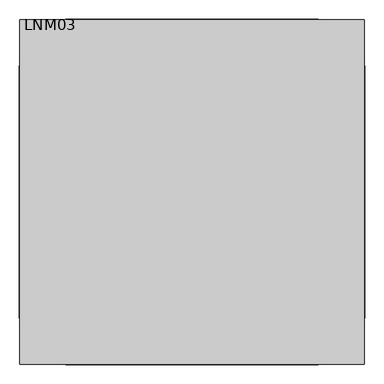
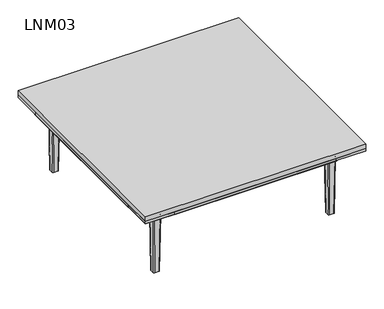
"""IFC4 building model written with IfcOpenShell, lengths in millimetres: furniture geometry, Coffe Tables : LNM03."""

from ifc_helpers import new_model, si_unit, point, frame, origin, place, context, project, spatial, polyline, circle_curve, ellipse_curve, trimmed, outline, extrude, faceted_brep, source, transform, mapped, element, save
from ifc_brep_helpers import plane_surface, cylinder_surface, revolved_surface, extruded_surface, advanced_brep


def lnm03_3ccea197(model_context):
    return source(origin(), model_context, "Body", "SolidModel", [
        extrude(outline(polyline([(450.0, -330.0), (450.0, -450.0), (330.0, -450.0), (330.0, -330.0), (450.0, -330.0)])), frame((0.0, 0.0, 290.0), z_axis=(0.0, 0.0, 1.0), x_axis=(1.0, 0.0, 0.0)), (0.0, 0.0, 1.0), 10.0),
        extrude(outline(polyline([(450.0, 450.0), (450.0, 330.0), (330.0, 330.0), (330.0, 450.0), (450.0, 450.0)])), frame((0.0, 0.0, 290.0), z_axis=(0.0, 0.0, 1.0), x_axis=(1.0, 0.0, 0.0)), (0.0, 0.0, 1.0), 10.0),
        extrude(outline(polyline([(-330.0, 450.0), (-330.0, 330.0), (-450.0, 330.0), (-450.0, 450.0), (-330.0, 450.0)])), frame((0.0, 0.0, 290.0), z_axis=(0.0, 0.0, 1.0), x_axis=(1.0, 0.0, 0.0)), (0.0, 0.0, 1.0), 10.0),
        extrude(outline(polyline([(-450.0, 330.0), (-330.0, 330.0), (-330.0, -330.0), (-450.0, -330.0), (-450.0, 330.0)])), frame((0.0, 0.0, 290.0), z_axis=(0.0, 0.0, 1.0), x_axis=(1.0, 0.0, 0.0)), (0.0, 0.0, 1.0), 10.0),
        extrude(outline(polyline([(330.0, 330.0), (450.0, 330.0), (450.0, -330.0), (330.0, -330.0), (330.0, 330.0)])), frame((0.0, 0.0, 290.0), z_axis=(0.0, 0.0, 1.0), x_axis=(1.0, 0.0, 0.0)), (0.0, 0.0, 1.0), 10.0),
        extrude(outline(polyline([(330.0, -330.0), (330.0, -450.0), (-330.0, -450.0), (-330.0, -330.0), (330.0, -330.0)])), frame((0.0, 0.0, 290.0), z_axis=(0.0, 0.0, 1.0), x_axis=(1.0, 0.0, 0.0)), (0.0, 0.0, 1.0), 10.0),
        extrude(outline(polyline([(330.0, 450.0), (330.0, 330.0), (-330.0, 330.0), (-330.0, 450.0), (330.0, 450.0)])), frame((0.0, 0.0, 290.0), z_axis=(0.0, 0.0, 1.0), x_axis=(1.0, 0.0, 0.0)), (0.0, 0.0, 1.0), 10.0),
        extrude(outline(polyline([(290.0, 330.0), (255.0, 330.0), (255.0, 378.7129935), (290.0, 451.7129935), (290.0, 330.0)])), frame((0.0, -330.0, 0.0), z_axis=(0.0, 1.0, 0.0), x_axis=(0.0, 0.0, 1.0)), (0.0, 0.0, 1.0), 660.0),
        extrude(outline(polyline([(290.0, -330.0), (290.0, -451.7129935), (255.0, -378.7129935), (255.0, -330.0), (290.0, -330.0)])), frame((0.0, -330.0, 0.0), z_axis=(0.0, 1.0, 0.0), x_axis=(0.0, 0.0, 1.0)), (0.0, 0.0, 1.0), 660.0),
        extrude(outline(polyline([(330.0, 290.0), (451.7129935, 290.0), (378.7129935, 255.0), (330.0, 255.0), (330.0, 290.0)])), frame((-330.0, 0.0, 0.0), z_axis=(1.0, 0.0, 0.0), x_axis=(0.0, 1.0, 0.0)), (0.0, 0.0, 1.0), 660.0),
        extrude(outline(polyline([(-330.0, 290.0), (-330.0, 255.0), (-378.7129935, 255.0), (-451.7129935, 290.0), (-330.0, 290.0)])), frame((-330.0, 0.0, 0.0), z_axis=(1.0, 0.0, 0.0), x_axis=(0.0, 1.0, 0.0)), (0.0, 0.0, 1.0), 660.0),
        faceted_brep([(-330.0, 330.0, 290.0), (-330.0, 450.0, 290.0), (-450.0, 450.0, 290.0), (-450.0, 330.0, 290.0), (-330.0, 330.0, 255.0), (-377.0, 330.0, 255.0), (-377.0, 377.0, 255.0), (-330.0, 377.0, 255.0)], [[[0, 1, 2, 3]], [[4, 5, 6, 7]], [[1, 0, 4, 7]], [[0, 3, 5, 4]], [[6, 2, 1, 7]], [[2, 6, 5, 3]]]),
        advanced_brep(
        [(-337.0, 345.0, 255.0), (-337.0, 369.0, 255.0), (-345.0, 377.0, 255.0), (-369.0, 377.0, 255.0), (-377.0, 369.0, 255.0), (-377.0, 345.0, 255.0), (-369.0, 337.0, 255.0), (-345.0, 337.0, 255.0), (-369.0, 342.0, 245.0), (-372.0, 345.0, 245.0), (-372.0, 369.0, 245.0), (-369.0, 372.0, 245.0), (-345.0, 372.0, 245.0), (-342.0, 369.0, 245.0), (-342.0, 345.0, 245.0), (-345.0, 342.0, 245.0), (-337.0, 345.0, 252.0), (-337.0, 369.0, 252.0), (-345.0, 377.0, 252.0), (-369.0, 377.0, 252.0), (-377.0, 369.0, 252.0), (-377.0, 345.0, 252.0), (-369.0, 337.0, 252.0), (-345.0, 337.0, 252.0)],
        [
            (0, 1),
            (1, 2, circle_curve(frame((-345.0, 369.0, 255.0), z_axis=(0.0, 0.0, 1.0), x_axis=(0.0, -1.0000000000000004, 0.0)), 8.0)),
            (2, 3),
            (3, 4, circle_curve(frame((-369.0, 369.0, 255.0), z_axis=(0.0, 0.0, 1.0), x_axis=(0.0, -1.0000000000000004, 0.0)), 8.0)),
            (4, 5),
            (5, 6, circle_curve(frame((-369.0, 345.0, 255.0), z_axis=(0.0, 0.0, 1.0), x_axis=(0.0, -1.0000000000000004, 0.0)), 8.0)),
            (6, 7),
            (7, 0, circle_curve(frame((-345.0, 345.0, 255.0), z_axis=(0.0, 0.0, 1.0), x_axis=(0.0, -1.0000000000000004, 0.0)), 8.0)),
            (8, 9, circle_curve(frame((-369.0, 345.0, 245.0), z_axis=(0.0, 0.0, -1.0), x_axis=(0.0, -1.0000000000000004, 0.0)), 3.0)),
            (9, 10),
            (10, 11, circle_curve(frame((-369.0, 369.0, 245.0), z_axis=(0.0, 0.0, -1.0), x_axis=(-1.0000000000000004, 0.0, 0.0)), 3.0)),
            (11, 12),
            (12, 13, circle_curve(frame((-345.0, 369.0, 245.0), z_axis=(0.0, 0.0, -1.0), x_axis=(0.0, 1.0000000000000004, 0.0)), 3.0)),
            (13, 14),
            (14, 15, circle_curve(frame((-345.0, 345.0, 245.0), z_axis=(0.0, 0.0, -1.0), x_axis=(1.0000000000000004, 0.0, 0.0)), 3.0)),
            (15, 8),
            (0, 16),
            (16, 17),
            (17, 1),
            (17, 18, circle_curve(frame((-345.0, 369.0, 252.0), z_axis=(0.0, 0.0, 1.0), x_axis=(0.0, -1.0000000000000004, 0.0)), 8.0)),
            (18, 2),
            (18, 19),
            (19, 3),
            (19, 20, circle_curve(frame((-369.0, 369.0, 252.0), z_axis=(0.0, 0.0, 1.0), x_axis=(0.0, -1.0000000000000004, 0.0)), 8.0)),
            (20, 4),
            (20, 21),
            (21, 5),
            (21, 22, circle_curve(frame((-369.0, 345.0, 252.0), z_axis=(0.0, 0.0, 1.0), x_axis=(0.0, -1.0000000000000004, 0.0)), 8.0)),
            (22, 6),
            (22, 23),
            (23, 7),
            (23, 16, circle_curve(frame((-345.0, 345.0, 252.0), z_axis=(0.0, 0.0, 1.0), x_axis=(0.0, -1.0000000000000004, 0.0)), 8.0)),
            (21, 9, circle_curve(frame((-380.9600528, 345.0, 243.8856766), z_axis=(0.0, 1.0000000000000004, 0.0), x_axis=(-1.0000000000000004, 0.0, 0.0)), 9.0290787)),
            (8, 22, circle_curve(frame((-369.0, 333.0399472, 243.8856766), z_axis=(1.0000000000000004, 0.0, 0.0), x_axis=(0.0, -1.0000000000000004, 0.0)), 9.0290787)),
            (20, 10, circle_curve(frame((-380.9600528, 369.0, 243.8856766), z_axis=(0.0, 1.0, 0.0), x_axis=(-1.0000000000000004, 0.0, 0.0)), 9.0290787)),
            (19, 11, circle_curve(frame((-369.0, 380.9600528, 243.8856766), z_axis=(1.0000000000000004, 0.0, 0.0), x_axis=(0.0, 1.0000000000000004, 0.0)), 9.0290787)),
            (18, 12, circle_curve(frame((-345.0, 380.9600528, 243.8856766), z_axis=(1.0, 0.0, 0.0), x_axis=(0.0, 1.0000000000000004, 0.0)), 9.0290787)),
            (17, 13, circle_curve(frame((-333.0399472, 369.0, 243.8856766), z_axis=(0.0, -1.0000000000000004, 0.0), x_axis=(1.0000000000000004, 0.0, 0.0)), 9.0290787)),
            (16, 14, circle_curve(frame((-333.0399472, 345.0, 243.8856766), z_axis=(0.0, -1.0, 0.0), x_axis=(1.0000000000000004, 0.0, 0.0)), 9.0290787)),
            (23, 15, circle_curve(frame((-345.0, 333.0399472, 243.8856766), z_axis=(-1.0000000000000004, 0.0, 0.0), x_axis=(0.0, -1.0000000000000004, 0.0)), 9.0290787)),
        ],
        [
            plane_surface(frame((-337.0, 1030.663284, 255.0), z_axis=(0.0, 0.0, 1.0), x_axis=(0.0, 1.0, 0.0))),
            plane_surface(frame((-337.0, 1030.663284, 245.0), z_axis=(0.0, 0.0, -1.0), x_axis=(0.0, -1.0, 0.0))),
            plane_surface(frame((-337.0, 345.0, 255.0), z_axis=(1.0, 0.0, 0.0), x_axis=(0.0, 0.0, -1.0))),
            cylinder_surface(frame((-345.0, 369.0, 245.0), z_axis=(0.0, 0.0, 1.0), x_axis=(0.0, -1.0000000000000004, 0.0)), 8.0),
            plane_surface(frame((-345.0, 377.0, 255.0), z_axis=(0.0, 1.0, 0.0), x_axis=(0.0, 0.0, -1.0))),
            cylinder_surface(frame((-369.0, 369.0, 245.0), z_axis=(0.0, 0.0, 1.0), x_axis=(0.0, -1.0000000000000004, 0.0)), 8.0),
            plane_surface(frame((-377.0, 369.0, 255.0), z_axis=(-1.0, 0.0, 0.0), x_axis=(0.0, 0.0, -1.0))),
            cylinder_surface(frame((-369.0, 345.0, 245.0), z_axis=(0.0, 0.0, 1.0), x_axis=(0.0, -1.0000000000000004, 0.0)), 8.0),
            plane_surface(frame((-369.0, 337.0, 255.0), z_axis=(0.0, -1.0, 0.0), x_axis=(0.0, 0.0, -1.0))),
            cylinder_surface(frame((-345.0, 345.0, 245.0), z_axis=(0.0, 0.0, 1.0), x_axis=(0.0, -1.0000000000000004, 0.0)), 8.0),
            revolved_surface(trimmed(ellipse_curve(frame((-369.0, 333.0399472, 243.8856766), z_axis=(-1.0000000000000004, 0.0, 0.0), x_axis=(0.0, -1.0000000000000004, 0.0)), 9.0290787, 9.0290787), [point((-369.0, 337.0, 252.0))], [point((-369.0, 342.0, 245.0))], True, "CARTESIAN"), (-369.0, 345.0, 0.0), (0.0, 0.0, -1.0)),
            revolved_surface(polyline([(-389.98913150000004, 345.0, 243.8856766), (-389.98913150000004, 369.0, 243.8856766)]), (-380.9600528, 345.0, 243.8856766), (0.0, -1.0000000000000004, 0.0)),
            revolved_surface(trimmed(ellipse_curve(frame((-380.9600528, 369.0, 243.8856766), z_axis=(0.0, 1.0000000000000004, 0.0), x_axis=(-1.0000000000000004, 0.0, 0.0)), 9.0290787, 9.0290787), [point((-377.0, 369.0, 252.0))], [point((-372.0, 369.0, 245.0))], True, "CARTESIAN"), (-369.0, 369.0, 0.0), (0.0, 0.0, -1.0)),
            revolved_surface(polyline([(-369.0, 389.98913150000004, 243.8856766), (-345.0, 389.98913150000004, 243.8856766)]), (-369.0, 380.9600528, 243.8856766), (-1.0000000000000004, 0.0, 0.0)),
            revolved_surface(trimmed(ellipse_curve(frame((-345.0, 380.9600528, 243.8856766), z_axis=(1.0000000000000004, 0.0, 0.0), x_axis=(0.0, 1.0000000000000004, 0.0)), 9.0290787, 9.0290787), [point((-345.0, 377.0, 252.0))], [point((-345.0, 372.0, 245.0))], True, "CARTESIAN"), (-345.0, 369.0, 0.0), (0.0, 0.0, -1.0)),
            revolved_surface(polyline([(-324.01086849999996, 369.0, 243.8856766), (-324.01086849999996, 345.0, 243.8856766)]), (-333.0399472, 369.0, 243.8856766), (0.0, 1.0000000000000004, 0.0)),
            revolved_surface(trimmed(ellipse_curve(frame((-333.0399472, 345.0, 243.8856766), z_axis=(0.0, -1.0000000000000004, 0.0), x_axis=(1.0000000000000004, 0.0, 0.0)), 9.0290787, 9.0290787), [point((-337.0, 345.0, 252.0))], [point((-342.0, 345.0, 245.0))], True, "CARTESIAN"), (-345.0, 345.0, 0.0), (0.0, 0.0, -1.0)),
            revolved_surface(polyline([(-345.0, 324.01086849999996, 243.8856766), (-369.0, 324.01086849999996, 243.8856766)]), (-345.0, 333.0399472, 243.8856766), (1.0000000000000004, 0.0, 0.0)),
        ],
        [
            (0, [[1, 2, 3, 4, 5, 6, 7, 8]]),
            (1, [[9, 10, 11, 12, 13, 14, 15, 16]]),
            (2, [[-1, 17, 18, 19]]),
            (3, [[-2, -19, 20, 21]]),
            (4, [[-3, -21, 22, 23]]),
            (5, [[-4, -23, 24, 25]]),
            (6, [[-5, -25, 26, 27]]),
            (7, [[-6, -27, 28, 29]]),
            (8, [[-7, -29, 30, 31]]),
            (9, [[-8, -31, 32, -17]]),
            (10, [[33, -9, 34, -28]]),
            (11, [[-33, -26, 35, -10]]),
            (12, [[-35, -24, 36, -11]]),
            (13, [[-36, -22, 37, -12]]),
            (14, [[-37, -20, 38, -13]]),
            (15, [[-38, -18, 39, -14]]),
            (16, [[-39, -32, 40, -15]]),
            (17, [[-34, -16, -40, -30]]),
        ],
    ),
        advanced_brep(
        [(-369.0, 372.0, 245.0), (-372.0, 369.0, 245.0), (-372.0, 345.0, 245.0), (-369.0, 342.0, 245.0), (-345.0, 342.0, 245.0), (-342.0, 345.0, 245.0), (-342.0, 369.0, 245.0), (-345.0, 372.0, 245.0), (-366.0, 369.0, 0.0), (-348.0, 369.0, 0.0), (-345.0, 366.0, 0.0), (-345.0, 348.0, 0.0), (-348.0, 345.0, 0.0), (-366.0, 345.0, 0.0), (-369.0, 348.0, 0.0), (-369.0, 366.0, 0.0)],
        [
            (0, 1, circle_curve(frame((-369.0, 369.0, 245.0), z_axis=(0.0, 0.0, 1.0), x_axis=(0.0, -1.0, 0.0)), 3.0)),
            (1, 2),
            (2, 3, circle_curve(frame((-369.0, 345.0, 245.0), z_axis=(0.0, 0.0, 1.0), x_axis=(0.0, -1.0, 0.0)), 3.0)),
            (3, 4),
            (4, 5, circle_curve(frame((-345.0, 345.0, 245.0), z_axis=(0.0, 0.0, 1.0), x_axis=(0.0, -1.0, 0.0)), 3.0)),
            (5, 6),
            (6, 7, circle_curve(frame((-345.0, 369.0, 245.0), z_axis=(0.0, 0.0, 1.0), x_axis=(0.0, -1.0, 0.0)), 3.0)),
            (7, 0),
            (8, 9),
            (9, 10, circle_curve(frame((-348.0, 366.0, 0.0), z_axis=(0.0, 0.0, -1.0), x_axis=(0.0, -1.0, 0.0)), 3.0)),
            (10, 11),
            (11, 12, circle_curve(frame((-348.0, 348.0, 0.0), z_axis=(0.0, 0.0, -1.0), x_axis=(0.0, -1.0, 0.0)), 3.0)),
            (12, 13),
            (13, 14, circle_curve(frame((-366.0, 348.0, 0.0), z_axis=(0.0, 0.0, -1.0), x_axis=(0.0, -1.0, 0.0)), 3.0)),
            (14, 15),
            (15, 8, circle_curve(frame((-366.0, 366.0, 0.0), z_axis=(0.0, 0.0, -1.0), x_axis=(0.0, -1.0, 0.0)), 3.0)),
            (15, 1),
            (0, 8),
            (14, 2),
            (13, 3),
            (12, 4),
            (11, 5),
            (10, 6),
            (9, 7),
        ],
        [
            plane_surface(frame((-357.0, 357.0, 245.0), z_axis=(0.0, 0.0, 1.0), x_axis=(0.0, 1.0, 0.0))),
            plane_surface(frame((-357.0, 357.0, 0.0), z_axis=(0.0, 0.0, -1.0), x_axis=(0.0, 1.0, 0.0))),
            extruded_surface(trimmed(circle_curve(frame((-366.0, 366.0, 0.0), z_axis=(0.0, 0.0, 1.0), x_axis=(0.0, -1.0, 0.0)), 3.0), [point((-366.0, 369.0, 0.0))], [point((-369.0, 366.0, 0.0))], True, "CARTESIAN"), (-3.0, 3.0, 245.0), 245.03673194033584),
            plane_surface(frame((-369.0, 357.0, 0.0), z_axis=(-0.9999250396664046, 0.0, -0.012243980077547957), x_axis=(0.0, -1.0, 0.0))),
            extruded_surface(trimmed(circle_curve(frame((-366.0, 348.0, 0.0), z_axis=(0.0, 0.0, 1.0), x_axis=(0.0, -1.0, 0.0)), 3.0), [point((-369.0, 348.0, 0.0))], [point((-366.0, 345.0, 0.0))], True, "CARTESIAN"), (-3.0, -3.0, 245.0), 245.03673194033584),
            plane_surface(frame((-357.0, 345.0, 0.0), z_axis=(0.0, -0.9999250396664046, -0.012243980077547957), x_axis=(1.0, 0.0, 0.0))),
            extruded_surface(trimmed(circle_curve(frame((-348.0, 348.0, 0.0), z_axis=(0.0, 0.0, 1.0), x_axis=(0.0, -1.0, 0.0)), 3.0), [point((-348.0, 345.0, 0.0))], [point((-345.0, 348.0, 0.0))], True, "CARTESIAN"), (3.0, -3.0, 245.0), 245.03673194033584),
            plane_surface(frame((-345.0, 357.0, 0.0), z_axis=(0.9999250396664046, 0.0, -0.012243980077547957), x_axis=(0.0, 1.0, 0.0))),
            extruded_surface(trimmed(circle_curve(frame((-348.0, 366.0, 0.0), z_axis=(0.0, 0.0, 1.0), x_axis=(0.0, -1.0, 0.0)), 3.0), [point((-345.0, 366.0, 0.0))], [point((-348.0, 369.0, 0.0))], True, "CARTESIAN"), (3.0, 3.0, 245.0), 245.03673194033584),
            plane_surface(frame((-357.0, 369.0, 0.0), z_axis=(0.0, 0.9999250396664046, -0.012243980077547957), x_axis=(-1.0, 0.0, 0.0))),
        ],
        [
            (0, [[1, 2, 3, 4, 5, 6, 7, 8]]),
            (1, [[9, 10, 11, 12, 13, 14, 15, 16]]),
            (2, [[-16, 17, -1, 18]]),
            (3, [[-15, 19, -2, -17]]),
            (4, [[-14, 20, -3, -19]]),
            (5, [[-13, 21, -4, -20]]),
            (6, [[-12, 22, -5, -21]]),
            (7, [[-11, 23, -6, -22]]),
            (8, [[-10, 24, -7, -23]]),
            (9, [[-9, -18, -8, -24]]),
        ],
    ),
        faceted_brep([(330.0, -330.0, 290.0), (330.0, -450.0, 290.0), (450.0, -450.0, 290.0), (450.0, -330.0, 290.0), (330.0, -330.0, 255.0), (377.0, -330.0, 255.0), (377.0, -377.0, 255.0), (330.0, -377.0, 255.0)], [[[0, 1, 2, 3]], [[4, 5, 6, 7]], [[1, 0, 4, 7]], [[0, 3, 5, 4]], [[6, 2, 1, 7]], [[2, 6, 5, 3]]]),
        advanced_brep(
        [(337.0, -345.0, 255.0), (337.0, -369.0, 255.0), (345.0, -377.0, 255.0), (369.0, -377.0, 255.0), (377.0, -369.0, 255.0), (377.0, -345.0, 255.0), (369.0, -337.0, 255.0), (345.0, -337.0, 255.0), (369.0, -342.0, 245.0), (372.0, -345.0, 245.0), (372.0, -369.0, 245.0), (369.0, -372.0, 245.0), (345.0, -372.0, 245.0), (342.0, -369.0, 245.0), (342.0, -345.0, 245.0), (345.0, -342.0, 245.0), (337.0, -345.0, 252.0), (337.0, -369.0, 252.0), (345.0, -377.0, 252.0), (369.0, -377.0, 252.0), (377.0, -369.0, 252.0), (377.0, -345.0, 252.0), (369.0, -337.0, 252.0), (345.0, -337.0, 252.0)],
        [
            (0, 1),
            (1, 2, circle_curve(frame((345.0, -369.0, 255.0), z_axis=(0.0, 0.0, 1.0), x_axis=(0.0, 1.0000000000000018, 0.0)), 8.0)),
            (2, 3),
            (3, 4, circle_curve(frame((369.0, -369.0, 255.0), z_axis=(0.0, 0.0, 1.0), x_axis=(0.0, 1.0000000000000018, 0.0)), 8.0)),
            (4, 5),
            (5, 6, circle_curve(frame((369.0, -345.0, 255.0), z_axis=(0.0, 0.0, 1.0), x_axis=(0.0, 1.0000000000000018, 0.0)), 8.0)),
            (6, 7),
            (7, 0, circle_curve(frame((345.0, -345.0, 255.0), z_axis=(0.0, 0.0, 1.0), x_axis=(0.0, 1.0000000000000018, 0.0)), 8.0)),
            (8, 9, circle_curve(frame((369.0, -345.0, 245.0), z_axis=(0.0, 0.0, -1.0), x_axis=(0.0, 1.0000000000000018, 0.0)), 3.0)),
            (9, 10),
            (10, 11, circle_curve(frame((369.0, -369.0, 245.0), z_axis=(0.0, 0.0, -1.0), x_axis=(1.0000000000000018, 0.0, 0.0)), 3.0)),
            (11, 12),
            (12, 13, circle_curve(frame((345.0, -369.0, 245.0), z_axis=(0.0, 0.0, -1.0), x_axis=(0.0, -1.0000000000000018, 0.0)), 3.0)),
            (13, 14),
            (14, 15, circle_curve(frame((345.0, -345.0, 245.0), z_axis=(0.0, 0.0, -1.0), x_axis=(-1.0000000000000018, 0.0, 0.0)), 3.0)),
            (15, 8),
            (0, 16),
            (16, 17),
            (17, 1),
            (17, 18, circle_curve(frame((345.0, -369.0, 252.0), z_axis=(0.0, 0.0, 1.0), x_axis=(0.0, 1.0000000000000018, 0.0)), 8.0)),
            (18, 2),
            (18, 19),
            (19, 3),
            (19, 20, circle_curve(frame((369.0, -369.0, 252.0), z_axis=(0.0, 0.0, 1.0), x_axis=(0.0, 1.0000000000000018, 0.0)), 8.0)),
            (20, 4),
            (20, 21),
            (21, 5),
            (21, 22, circle_curve(frame((369.0, -345.0, 252.0), z_axis=(0.0, 0.0, 1.0), x_axis=(0.0, 1.0000000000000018, 0.0)), 8.0)),
            (22, 6),
            (22, 23),
            (23, 7),
            (23, 16, circle_curve(frame((345.0, -345.0, 252.0), z_axis=(0.0, 0.0, 1.0), x_axis=(0.0, 1.0000000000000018, 0.0)), 8.0)),
            (21, 9, circle_curve(frame((380.9600528, -345.0, 243.8856766), z_axis=(0.0, -1.0000000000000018, 0.0), x_axis=(1.0000000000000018, 0.0, 0.0)), 9.0290787)),
            (8, 22, circle_curve(frame((369.0, -333.0399472, 243.8856766), z_axis=(-1.0000000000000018, 0.0, 0.0), x_axis=(0.0, 1.0000000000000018, 0.0)), 9.0290787)),
            (20, 10, circle_curve(frame((380.9600528, -369.0, 243.8856766), z_axis=(0.0, -1.0, 0.0), x_axis=(1.0000000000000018, 0.0, 0.0)), 9.0290787)),
            (19, 11, circle_curve(frame((369.0, -380.9600528, 243.8856766), z_axis=(-1.0000000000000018, 0.0, 0.0), x_axis=(0.0, -1.0000000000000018, 0.0)), 9.0290787)),
            (18, 12, circle_curve(frame((345.0, -380.9600528, 243.8856766), z_axis=(-1.0, 0.0, 0.0), x_axis=(0.0, -1.0000000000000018, 0.0)), 9.0290787)),
            (17, 13, circle_curve(frame((333.0399472, -369.0, 243.8856766), z_axis=(0.0, 1.0000000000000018, 0.0), x_axis=(-1.0000000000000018, 0.0, 0.0)), 9.0290787)),
            (16, 14, circle_curve(frame((333.0399472, -345.0, 243.8856766), z_axis=(0.0, 1.0, 0.0), x_axis=(-1.0000000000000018, 0.0, 0.0)), 9.0290787)),
            (23, 15, circle_curve(frame((345.0, -333.0399472, 243.8856766), z_axis=(1.0000000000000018, 0.0, 0.0), x_axis=(0.0, 1.0000000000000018, 0.0)), 9.0290787)),
        ],
        [
            plane_surface(frame((337.0, -1030.663284, 255.0), z_axis=(0.0, 0.0, 1.0), x_axis=(0.0, -1.0, 0.0))),
            plane_surface(frame((337.0, -1030.663284, 245.0), z_axis=(0.0, 0.0, -1.0), x_axis=(0.0, 1.0, 0.0))),
            plane_surface(frame((337.0, -345.0, 255.0), z_axis=(-1.0, 0.0, 0.0), x_axis=(0.0, 0.0, -1.0))),
            cylinder_surface(frame((345.0, -369.0, 245.0), z_axis=(0.0, 0.0, 1.0), x_axis=(0.0, 1.0000000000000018, 0.0)), 8.0),
            plane_surface(frame((345.0, -377.0, 255.0), z_axis=(0.0, -1.0, 0.0), x_axis=(0.0, 0.0, -1.0))),
            cylinder_surface(frame((369.0, -369.0, 245.0), z_axis=(0.0, 0.0, 1.0), x_axis=(0.0, 1.0000000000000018, 0.0)), 8.0),
            plane_surface(frame((377.0, -369.0, 255.0), z_axis=(1.0, 0.0, 0.0), x_axis=(0.0, 0.0, -1.0))),
            cylinder_surface(frame((369.0, -345.0, 245.0), z_axis=(0.0, 0.0, 1.0), x_axis=(0.0, 1.0000000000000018, 0.0)), 8.0),
            plane_surface(frame((369.0, -337.0, 255.0), z_axis=(0.0, 1.0, 0.0), x_axis=(0.0, 0.0, -1.0))),
            cylinder_surface(frame((345.0, -345.0, 245.0), z_axis=(0.0, 0.0, 1.0), x_axis=(0.0, 1.0000000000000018, 0.0)), 8.0),
            revolved_surface(trimmed(ellipse_curve(frame((369.0, -333.0399472, 243.8856766), z_axis=(1.0000000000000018, 0.0, 0.0), x_axis=(0.0, 1.0000000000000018, 0.0)), 9.0290787, 9.0290787), [point((369.0, -337.0, 252.0))], [point((369.0, -342.0, 245.0))], True, "CARTESIAN"), (369.0, -345.0, 0.0), (0.0, 0.0, -1.0)),
            revolved_surface(polyline([(389.98913150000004, -345.0, 243.8856766), (389.98913150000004, -369.0000000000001, 243.8856766)]), (380.9600528, -345.0, 243.8856766), (0.0, 1.0000000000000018, 0.0)),
            revolved_surface(trimmed(ellipse_curve(frame((380.9600528, -369.0, 243.8856766), z_axis=(0.0, -1.0000000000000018, 0.0), x_axis=(1.0000000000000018, 0.0, 0.0)), 9.0290787, 9.0290787), [point((377.0, -369.0, 252.0))], [point((372.0, -369.0, 245.0))], True, "CARTESIAN"), (369.0, -369.0, 0.0), (0.0, 0.0, -1.0)),
            revolved_surface(polyline([(369.0, -389.98913150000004, 243.8856766), (344.9999999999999, -389.98913150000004, 243.8856766)]), (369.0, -380.9600528, 243.8856766), (1.0000000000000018, 0.0, 0.0)),
            revolved_surface(trimmed(ellipse_curve(frame((345.0, -380.9600528, 243.8856766), z_axis=(-1.0000000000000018, 0.0, 0.0), x_axis=(0.0, -1.0000000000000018, 0.0)), 9.0290787, 9.0290787), [point((345.0, -377.0, 252.0))], [point((345.0, -372.0, 245.0))], True, "CARTESIAN"), (345.0, -369.0, 0.0), (0.0, 0.0, -1.0)),
            revolved_surface(polyline([(324.01086849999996, -369.0, 243.8856766), (324.01086849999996, -344.9999999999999, 243.8856766)]), (333.0399472, -369.0, 243.8856766), (0.0, -1.0000000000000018, 0.0)),
            revolved_surface(trimmed(ellipse_curve(frame((333.0399472, -345.0, 243.8856766), z_axis=(0.0, 1.0000000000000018, 0.0), x_axis=(-1.0000000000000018, 0.0, 0.0)), 9.0290787, 9.0290787), [point((337.0, -345.0, 252.0))], [point((342.0, -345.0, 245.0))], True, "CARTESIAN"), (345.0, -345.0, 0.0), (0.0, 0.0, -1.0)),
            revolved_surface(polyline([(345.0, -324.01086849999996, 243.8856766), (369.0000000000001, -324.01086849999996, 243.8856766)]), (345.0, -333.0399472, 243.8856766), (-1.0000000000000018, 0.0, 0.0)),
        ],
        [
            (0, [[1, 2, 3, 4, 5, 6, 7, 8]]),
            (1, [[9, 10, 11, 12, 13, 14, 15, 16]]),
            (2, [[-1, 17, 18, 19]]),
            (3, [[-2, -19, 20, 21]]),
            (4, [[-3, -21, 22, 23]]),
            (5, [[-4, -23, 24, 25]]),
            (6, [[-5, -25, 26, 27]]),
            (7, [[-6, -27, 28, 29]]),
            (8, [[-7, -29, 30, 31]]),
            (9, [[-8, -31, 32, -17]]),
            (10, [[33, -9, 34, -28]]),
            (11, [[-33, -26, 35, -10]]),
            (12, [[-35, -24, 36, -11]]),
            (13, [[-36, -22, 37, -12]]),
            (14, [[-37, -20, 38, -13]]),
            (15, [[-38, -18, 39, -14]]),
            (16, [[-39, -32, 40, -15]]),
            (17, [[-34, -16, -40, -30]]),
        ],
    ),
        advanced_brep(
        [(369.0, -372.0, 245.0), (372.0, -369.0, 245.0), (372.0, -345.0, 245.0), (369.0, -342.0, 245.0), (345.0, -342.0, 245.0), (342.0, -345.0, 245.0), (342.0, -369.0, 245.0), (345.0, -372.0, 245.0), (366.0, -369.0, 0.0), (348.0, -369.0, 0.0), (345.0, -366.0, 0.0), (345.0, -348.0, 0.0), (348.0, -345.0, 0.0), (366.0, -345.0, 0.0), (369.0, -348.0, 0.0), (369.0, -366.0, 0.0)],
        [
            (0, 1, circle_curve(frame((369.0, -369.0, 245.0), z_axis=(0.0, 0.0, 1.0), x_axis=(0.0, 1.0, 0.0)), 3.0)),
            (1, 2),
            (2, 3, circle_curve(frame((369.0, -345.0, 245.0), z_axis=(0.0, 0.0, 1.0), x_axis=(0.0, 1.0, 0.0)), 3.0)),
            (3, 4),
            (4, 5, circle_curve(frame((345.0, -345.0, 245.0), z_axis=(0.0, 0.0, 1.0), x_axis=(0.0, 1.0, 0.0)), 3.0)),
            (5, 6),
            (6, 7, circle_curve(frame((345.0, -369.0, 245.0), z_axis=(0.0, 0.0, 1.0), x_axis=(0.0, 1.0, 0.0)), 3.0)),
            (7, 0),
            (8, 9),
            (9, 10, circle_curve(frame((348.0, -366.0, 0.0), z_axis=(0.0, 0.0, -1.0), x_axis=(0.0, 1.0, 0.0)), 3.0)),
            (10, 11),
            (11, 12, circle_curve(frame((348.0, -348.0, 0.0), z_axis=(0.0, 0.0, -1.0), x_axis=(0.0, 1.0, 0.0)), 3.0)),
            (12, 13),
            (13, 14, circle_curve(frame((366.0, -348.0, 0.0), z_axis=(0.0, 0.0, -1.0), x_axis=(0.0, 1.0, 0.0)), 3.0)),
            (14, 15),
            (15, 8, circle_curve(frame((366.0, -366.0, 0.0), z_axis=(0.0, 0.0, -1.0), x_axis=(0.0, 1.0, 0.0)), 3.0)),
            (15, 1),
            (0, 8),
            (14, 2),
            (13, 3),
            (12, 4),
            (11, 5),
            (10, 6),
            (9, 7),
        ],
        [
            plane_surface(frame((357.0, -357.0, 245.0), z_axis=(0.0, 0.0, 1.0), x_axis=(0.0, -1.0, 0.0))),
            plane_surface(frame((357.0, -357.0, 0.0), z_axis=(0.0, 0.0, -1.0), x_axis=(0.0, -1.0, 0.0))),
            extruded_surface(trimmed(circle_curve(frame((366.0, -366.0, 0.0), z_axis=(0.0, 0.0, 1.0), x_axis=(0.0, 1.0, 0.0)), 3.0), [point((366.0, -369.0, 0.0))], [point((369.0, -366.0, 0.0))], True, "CARTESIAN"), (3.0, -3.0, 245.0), 245.03673194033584),
            plane_surface(frame((369.0, -357.0, 0.0), z_axis=(0.9999250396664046, 0.0, -0.012243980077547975), x_axis=(0.0, 1.0, 0.0))),
            extruded_surface(trimmed(circle_curve(frame((366.0, -348.0, 0.0), z_axis=(0.0, 0.0, 1.0), x_axis=(0.0, 1.0, 0.0)), 3.0), [point((369.0, -348.0, 0.0))], [point((366.0, -345.0, 0.0))], True, "CARTESIAN"), (3.0, 3.0, 245.0), 245.03673194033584),
            plane_surface(frame((357.0, -345.0, 0.0), z_axis=(0.0, 0.9999250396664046, -0.012243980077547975), x_axis=(-1.0, 0.0, 0.0))),
            extruded_surface(trimmed(circle_curve(frame((348.0, -348.0, 0.0), z_axis=(0.0, 0.0, 1.0), x_axis=(0.0, 1.0, 0.0)), 3.0), [point((348.0, -345.0, 0.0))], [point((345.0, -348.0, 0.0))], True, "CARTESIAN"), (-3.0, 3.0, 245.0), 245.03673194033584),
            plane_surface(frame((345.0, -357.0, 0.0), z_axis=(-0.9999250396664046, 0.0, -0.012243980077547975), x_axis=(0.0, -1.0, 0.0))),
            extruded_surface(trimmed(circle_curve(frame((348.0, -366.0, 0.0), z_axis=(0.0, 0.0, 1.0), x_axis=(0.0, 1.0, 0.0)), 3.0), [point((345.0, -366.0, 0.0))], [point((348.0, -369.0, 0.0))], True, "CARTESIAN"), (-3.0, -3.0, 245.0), 245.03673194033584),
            plane_surface(frame((357.0, -369.0, 0.0), z_axis=(0.0, -0.9999250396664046, -0.012243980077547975), x_axis=(1.0, 0.0, 0.0))),
        ],
        [
            (0, [[1, 2, 3, 4, 5, 6, 7, 8]]),
            (1, [[9, 10, 11, 12, 13, 14, 15, 16]]),
            (2, [[-16, 17, -1, 18]]),
            (3, [[-15, 19, -2, -17]]),
            (4, [[-14, 20, -3, -19]]),
            (5, [[-13, 21, -4, -20]]),
            (6, [[-12, 22, -5, -21]]),
            (7, [[-11, 23, -6, -22]]),
            (8, [[-10, 24, -7, -23]]),
            (9, [[-9, -18, -8, -24]]),
        ],
    ),
        faceted_brep([(330.0, 330.0, 290.0), (450.0, 330.0, 290.0), (450.0, 450.0, 290.0), (330.0, 450.0, 290.0), (330.0, 330.0, 255.0), (330.0, 377.0, 255.0), (377.0, 377.0, 255.0), (377.0, 330.0, 255.0)], [[[0, 1, 2, 3]], [[4, 5, 6, 7]], [[1, 0, 4, 7]], [[0, 3, 5, 4]], [[6, 2, 1, 7]], [[2, 6, 5, 3]]]),
        advanced_brep(
        [(345.0, 337.0, 255.0), (369.0, 337.0, 255.0), (377.0, 345.0, 255.0), (377.0, 369.0, 255.0), (369.0, 377.0, 255.0), (345.0, 377.0, 255.0), (337.0, 369.0, 255.0), (337.0, 345.0, 255.0), (342.0, 369.0, 245.0), (345.0, 372.0, 245.0), (369.0, 372.0, 245.0), (372.0, 369.0, 245.0), (372.0, 345.0, 245.0), (369.0, 342.0, 245.0), (345.0, 342.0, 245.0), (342.0, 345.0, 245.0), (345.0, 337.0, 252.0), (369.0, 337.0, 252.0), (377.0, 345.0, 252.0), (377.0, 369.0, 252.0), (369.0, 377.0, 252.0), (345.0, 377.0, 252.0), (337.0, 369.0, 252.0), (337.0, 345.0, 252.0)],
        [
            (0, 1),
            (1, 2, circle_curve(frame((369.0, 345.0, 255.0), z_axis=(0.0, 0.0, 1.0), x_axis=(-1.0000000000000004, 0.0, 0.0)), 8.0)),
            (2, 3),
            (3, 4, circle_curve(frame((369.0, 369.0, 255.0), z_axis=(0.0, 0.0, 1.0), x_axis=(-1.0000000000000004, 0.0, 0.0)), 8.0)),
            (4, 5),
            (5, 6, circle_curve(frame((345.0, 369.0, 255.0), z_axis=(0.0, 0.0, 1.0), x_axis=(-1.0000000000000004, 0.0, 0.0)), 8.0)),
            (6, 7),
            (7, 0, circle_curve(frame((345.0, 345.0, 255.0), z_axis=(0.0, 0.0, 1.0), x_axis=(-1.0000000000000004, 0.0, 0.0)), 8.0)),
            (8, 9, circle_curve(frame((345.0, 369.0, 245.0), z_axis=(0.0, 0.0, -1.0), x_axis=(-1.0000000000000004, 0.0, 0.0)), 3.0)),
            (9, 10),
            (10, 11, circle_curve(frame((369.0, 369.0, 245.0), z_axis=(0.0, 0.0, -1.0), x_axis=(0.0, 1.0000000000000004, 0.0)), 3.0)),
            (11, 12),
            (12, 13, circle_curve(frame((369.0, 345.0, 245.0), z_axis=(0.0, 0.0, -1.0), x_axis=(1.0000000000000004, 0.0, 0.0)), 3.0)),
            (13, 14),
            (14, 15, circle_curve(frame((345.0, 345.0, 245.0), z_axis=(0.0, 0.0, -1.0), x_axis=(0.0, -1.0000000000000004, 0.0)), 3.0)),
            (15, 8),
            (0, 16),
            (16, 17),
            (17, 1),
            (17, 18, circle_curve(frame((369.0, 345.0, 252.0), z_axis=(0.0, 0.0, 1.0), x_axis=(-1.0000000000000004, 0.0, 0.0)), 8.0)),
            (18, 2),
            (18, 19),
            (19, 3),
            (19, 20, circle_curve(frame((369.0, 369.0, 252.0), z_axis=(0.0, 0.0, 1.0), x_axis=(-1.0000000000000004, 0.0, 0.0)), 8.0)),
            (20, 4),
            (20, 21),
            (21, 5),
            (21, 22, circle_curve(frame((345.0, 369.0, 252.0), z_axis=(0.0, 0.0, 1.0), x_axis=(-1.0000000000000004, 0.0, 0.0)), 8.0)),
            (22, 6),
            (22, 23),
            (23, 7),
            (23, 16, circle_curve(frame((345.0, 345.0, 252.0), z_axis=(0.0, 0.0, 1.0), x_axis=(-1.0000000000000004, 0.0, 0.0)), 8.0)),
            (21, 9, circle_curve(frame((345.0, 380.9600528, 243.8856766), z_axis=(1.0000000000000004, 0.0, 0.0), x_axis=(0.0, 1.0000000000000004, 0.0)), 9.0290787)),
            (8, 22, circle_curve(frame((333.0399472, 369.0, 243.8856766), z_axis=(0.0, -1.0000000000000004, 0.0), x_axis=(-1.0000000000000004, 0.0, 0.0)), 9.0290787)),
            (20, 10, circle_curve(frame((369.0, 380.9600528, 243.8856766), z_axis=(1.0, 0.0, 0.0), x_axis=(0.0, 1.0000000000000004, 0.0)), 9.0290787)),
            (19, 11, circle_curve(frame((380.9600528, 369.0, 243.8856766), z_axis=(0.0, -1.0000000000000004, 0.0), x_axis=(1.0000000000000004, 0.0, 0.0)), 9.0290787)),
            (18, 12, circle_curve(frame((380.9600528, 345.0, 243.8856766), z_axis=(0.0, -1.0, 0.0), x_axis=(1.0000000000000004, 0.0, 0.0)), 9.0290787)),
            (17, 13, circle_curve(frame((369.0, 333.0399472, 243.8856766), z_axis=(-1.0000000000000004, 0.0, 0.0), x_axis=(0.0, -1.0000000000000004, 0.0)), 9.0290787)),
            (16, 14, circle_curve(frame((345.0, 333.0399472, 243.8856766), z_axis=(-1.0, 0.0, 0.0), x_axis=(0.0, -1.0000000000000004, 0.0)), 9.0290787)),
            (23, 15, circle_curve(frame((333.0399472, 345.0, 243.8856766), z_axis=(0.0, 1.0000000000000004, 0.0), x_axis=(-1.0000000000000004, 0.0, 0.0)), 9.0290787)),
        ],
        [
            plane_surface(frame((1030.663284, 337.0, 255.0), z_axis=(0.0, 0.0, 1.0), x_axis=(1.0, 0.0, 0.0))),
            plane_surface(frame((1030.663284, 337.0, 245.0), z_axis=(0.0, 0.0, -1.0), x_axis=(-1.0, 0.0, 0.0))),
            plane_surface(frame((345.0, 337.0, 255.0), z_axis=(0.0, -1.0, 0.0), x_axis=(0.0, 0.0, -1.0))),
            cylinder_surface(frame((369.0, 345.0, 245.0), z_axis=(0.0, 0.0, 1.0), x_axis=(-1.0000000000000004, 0.0, 0.0)), 8.0),
            plane_surface(frame((377.0, 345.0, 255.0), z_axis=(1.0, 0.0, 0.0), x_axis=(0.0, 0.0, -1.0))),
            cylinder_surface(frame((369.0, 369.0, 245.0), z_axis=(0.0, 0.0, 1.0), x_axis=(-1.0000000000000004, 0.0, 0.0)), 8.0),
            plane_surface(frame((369.0, 377.0, 255.0), z_axis=(0.0, 1.0, 0.0), x_axis=(0.0, 0.0, -1.0))),
            cylinder_surface(frame((345.0, 369.0, 245.0), z_axis=(0.0, 0.0, 1.0), x_axis=(-1.0000000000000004, 0.0, 0.0)), 8.0),
            plane_surface(frame((337.0, 369.0, 255.0), z_axis=(-1.0, 0.0, 0.0), x_axis=(0.0, 0.0, -1.0))),
            cylinder_surface(frame((345.0, 345.0, 245.0), z_axis=(0.0, 0.0, 1.0), x_axis=(-1.0000000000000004, 0.0, 0.0)), 8.0),
            revolved_surface(trimmed(ellipse_curve(frame((333.0399472, 369.0, 243.8856766), z_axis=(0.0, 1.0000000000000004, 0.0), x_axis=(-1.0000000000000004, 0.0, 0.0)), 9.0290787, 9.0290787), [point((337.0, 369.0, 252.0))], [point((342.0, 369.0, 245.0))], True, "CARTESIAN"), (345.0, 369.0, 0.0), (0.0, 0.0, -1.0)),
            revolved_surface(polyline([(345.0, 389.98913150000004, 243.8856766), (369.0, 389.98913150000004, 243.8856766)]), (345.0, 380.9600528, 243.8856766), (-1.0000000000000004, 0.0, 0.0)),
            revolved_surface(trimmed(ellipse_curve(frame((369.0, 380.9600528, 243.8856766), z_axis=(1.0000000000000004, 0.0, 0.0), x_axis=(0.0, 1.0000000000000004, 0.0)), 9.0290787, 9.0290787), [point((369.0, 377.0, 252.0))], [point((369.0, 372.0, 245.0))], True, "CARTESIAN"), (369.0, 369.0, 0.0), (0.0, 0.0, -1.0)),
            revolved_surface(polyline([(389.98913150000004, 369.0, 243.8856766), (389.98913150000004, 345.0, 243.8856766)]), (380.9600528, 369.0, 243.8856766), (0.0, 1.0000000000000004, 0.0)),
            revolved_surface(trimmed(ellipse_curve(frame((380.9600528, 345.0, 243.8856766), z_axis=(0.0, -1.0000000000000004, 0.0), x_axis=(1.0000000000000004, 0.0, 0.0)), 9.0290787, 9.0290787), [point((377.0, 345.0, 252.0))], [point((372.0, 345.0, 245.0))], True, "CARTESIAN"), (369.0, 345.0, 0.0), (0.0, 0.0, -1.0)),
            revolved_surface(polyline([(369.0, 324.01086849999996, 243.8856766), (345.0, 324.01086849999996, 243.8856766)]), (369.0, 333.0399472, 243.8856766), (1.0000000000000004, 0.0, 0.0)),
            revolved_surface(trimmed(ellipse_curve(frame((345.0, 333.0399472, 243.8856766), z_axis=(-1.0000000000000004, 0.0, 0.0), x_axis=(0.0, -1.0000000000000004, 0.0)), 9.0290787, 9.0290787), [point((345.0, 337.0, 252.0))], [point((345.0, 342.0, 245.0))], True, "CARTESIAN"), (345.0, 345.0, 0.0), (0.0, 0.0, -1.0)),
            revolved_surface(polyline([(324.01086849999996, 345.0, 243.8856766), (324.01086849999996, 369.0, 243.8856766)]), (333.0399472, 345.0, 243.8856766), (0.0, -1.0000000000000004, 0.0)),
        ],
        [
            (0, [[1, 2, 3, 4, 5, 6, 7, 8]]),
            (1, [[9, 10, 11, 12, 13, 14, 15, 16]]),
            (2, [[-1, 17, 18, 19]]),
            (3, [[-2, -19, 20, 21]]),
            (4, [[-3, -21, 22, 23]]),
            (5, [[-4, -23, 24, 25]]),
            (6, [[-5, -25, 26, 27]]),
            (7, [[-6, -27, 28, 29]]),
            (8, [[-7, -29, 30, 31]]),
            (9, [[-8, -31, 32, -17]]),
            (10, [[33, -9, 34, -28]]),
            (11, [[-33, -26, 35, -10]]),
            (12, [[-35, -24, 36, -11]]),
            (13, [[-36, -22, 37, -12]]),
            (14, [[-37, -20, 38, -13]]),
            (15, [[-38, -18, 39, -14]]),
            (16, [[-39, -32, 40, -15]]),
            (17, [[-34, -16, -40, -30]]),
        ],
    ),
        advanced_brep(
        [(372.0, 369.0, 245.0), (369.0, 372.0, 245.0), (345.0, 372.0, 245.0), (342.0, 369.0, 245.0), (342.0, 345.0, 245.0), (345.0, 342.0, 245.0), (369.0, 342.0, 245.0), (372.0, 345.0, 245.0), (369.0, 366.0, 0.0), (369.0, 348.0, 0.0), (366.0, 345.0, 0.0), (348.0, 345.0, 0.0), (345.0, 348.0, 0.0), (345.0, 366.0, 0.0), (348.0, 369.0, 0.0), (366.0, 369.0, 0.0)],
        [
            (0, 1, circle_curve(frame((369.0, 369.0, 245.0), z_axis=(0.0, 0.0, 1.0), x_axis=(-1.0, 0.0, 0.0)), 3.0)),
            (1, 2),
            (2, 3, circle_curve(frame((345.0, 369.0, 245.0), z_axis=(0.0, 0.0, 1.0), x_axis=(-1.0, 0.0, 0.0)), 3.0)),
            (3, 4),
            (4, 5, circle_curve(frame((345.0, 345.0, 245.0), z_axis=(0.0, 0.0, 1.0), x_axis=(-1.0, 0.0, 0.0)), 3.0)),
            (5, 6),
            (6, 7, circle_curve(frame((369.0, 345.0, 245.0), z_axis=(0.0, 0.0, 1.0), x_axis=(-1.0, 0.0, 0.0)), 3.0)),
            (7, 0),
            (8, 9),
            (9, 10, circle_curve(frame((366.0, 348.0, 0.0), z_axis=(0.0, 0.0, -1.0), x_axis=(-1.0, 0.0, 0.0)), 3.0)),
            (10, 11),
            (11, 12, circle_curve(frame((348.0, 348.0, 0.0), z_axis=(0.0, 0.0, -1.0), x_axis=(-1.0, 0.0, 0.0)), 3.0)),
            (12, 13),
            (13, 14, circle_curve(frame((348.0, 366.0, 0.0), z_axis=(0.0, 0.0, -1.0), x_axis=(-1.0, 0.0, 0.0)), 3.0)),
            (14, 15),
            (15, 8, circle_curve(frame((366.0, 366.0, 0.0), z_axis=(0.0, 0.0, -1.0), x_axis=(-1.0, 0.0, 0.0)), 3.0)),
            (15, 1),
            (0, 8),
            (14, 2),
            (13, 3),
            (12, 4),
            (11, 5),
            (10, 6),
            (9, 7),
        ],
        [
            plane_surface(frame((357.0, 357.0, 245.0), z_axis=(0.0, 0.0, 1.0), x_axis=(1.0, 0.0, 0.0))),
            plane_surface(frame((357.0, 357.0, 0.0), z_axis=(0.0, 0.0, -1.0), x_axis=(1.0, 0.0, 0.0))),
            extruded_surface(trimmed(circle_curve(frame((366.0, 366.0, 0.0), z_axis=(0.0, 0.0, 1.0), x_axis=(-1.0, 0.0, 0.0)), 3.0), [point((369.0, 366.0, 0.0))], [point((366.0, 369.0, 0.0))], True, "CARTESIAN"), (3.0, 3.0, 245.0), 245.03673194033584),
            plane_surface(frame((357.0, 369.0, 0.0), z_axis=(0.0, 0.9999250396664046, -0.012243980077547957), x_axis=(-1.0, 0.0, 0.0))),
            extruded_surface(trimmed(circle_curve(frame((348.0, 366.0, 0.0), z_axis=(0.0, 0.0, 1.0), x_axis=(-1.0, 0.0, 0.0)), 3.0), [point((348.0, 369.0, 0.0))], [point((345.0, 366.0, 0.0))], True, "CARTESIAN"), (-3.0, 3.0, 245.0), 245.03673194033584),
            plane_surface(frame((345.0, 357.0, 0.0), z_axis=(-0.9999250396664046, 0.0, -0.012243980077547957), x_axis=(0.0, -1.0, 0.0))),
            extruded_surface(trimmed(circle_curve(frame((348.0, 348.0, 0.0), z_axis=(0.0, 0.0, 1.0), x_axis=(-1.0, 0.0, 0.0)), 3.0), [point((345.0, 348.0, 0.0))], [point((348.0, 345.0, 0.0))], True, "CARTESIAN"), (-3.0, -3.0, 245.0), 245.03673194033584),
            plane_surface(frame((357.0, 345.0, 0.0), z_axis=(0.0, -0.9999250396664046, -0.012243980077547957), x_axis=(1.0, 0.0, 0.0))),
            extruded_surface(trimmed(circle_curve(frame((366.0, 348.0, 0.0), z_axis=(0.0, 0.0, 1.0), x_axis=(-1.0, 0.0, 0.0)), 3.0), [point((366.0, 345.0, 0.0))], [point((369.0, 348.0, 0.0))], True, "CARTESIAN"), (3.0, -3.0, 245.0), 245.03673194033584),
            plane_surface(frame((369.0, 357.0, 0.0), z_axis=(0.9999250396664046, 0.0, -0.012243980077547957), x_axis=(0.0, 1.0, 0.0))),
        ],
        [
            (0, [[1, 2, 3, 4, 5, 6, 7, 8]]),
            (1, [[9, 10, 11, 12, 13, 14, 15, 16]]),
            (2, [[-16, 17, -1, 18]]),
            (3, [[-15, 19, -2, -17]]),
            (4, [[-14, 20, -3, -19]]),
            (5, [[-13, 21, -4, -20]]),
            (6, [[-12, 22, -5, -21]]),
            (7, [[-11, 23, -6, -22]]),
            (8, [[-10, 24, -7, -23]]),
            (9, [[-9, -18, -8, -24]]),
        ],
    ),
        faceted_brep([(-330.0, -330.0, 290.0), (-450.0, -330.0, 290.0), (-450.0, -450.0, 290.0), (-330.0, -450.0, 290.0), (-330.0, -330.0, 255.0), (-330.0, -377.0, 255.0), (-377.0, -377.0, 255.0), (-377.0, -330.0, 255.0)], [[[0, 1, 2, 3]], [[4, 5, 6, 7]], [[1, 0, 4, 7]], [[0, 3, 5, 4]], [[6, 2, 1, 7]], [[2, 6, 5, 3]]]),
        advanced_brep(
        [(-345.0, -337.0, 255.0), (-369.0, -337.0, 255.0), (-377.0, -345.0, 255.0), (-377.0, -369.0, 255.0), (-369.0, -377.0, 255.0), (-345.0, -377.0, 255.0), (-337.0, -369.0, 255.0), (-337.0, -345.0, 255.0), (-342.0, -369.0, 245.0), (-345.0, -372.0, 245.0), (-369.0, -372.0, 245.0), (-372.0, -369.0, 245.0), (-372.0, -345.0, 245.0), (-369.0, -342.0, 245.0), (-345.0, -342.0, 245.0), (-342.0, -345.0, 245.0), (-345.0, -337.0, 252.0), (-369.0, -337.0, 252.0), (-377.0, -345.0, 252.0), (-377.0, -369.0, 252.0), (-369.0, -377.0, 252.0), (-345.0, -377.0, 252.0), (-337.0, -369.0, 252.0), (-337.0, -345.0, 252.0)],
        [
            (0, 1),
            (1, 2, circle_curve(frame((-369.0, -345.0, 255.0), z_axis=(0.0, 0.0, 1.0), x_axis=(1.0, 0.0, 0.0)), 8.0)),
            (2, 3),
            (3, 4, circle_curve(frame((-369.0, -369.0, 255.0), z_axis=(0.0, 0.0, 1.0), x_axis=(1.0, 0.0, 0.0)), 8.0)),
            (4, 5),
            (5, 6, circle_curve(frame((-345.0, -369.0, 255.0), z_axis=(0.0, 0.0, 1.0), x_axis=(1.0, 0.0, 0.0)), 8.0)),
            (6, 7),
            (7, 0, circle_curve(frame((-345.0, -345.0, 255.0), z_axis=(0.0, 0.0, 1.0), x_axis=(1.0, 0.0, 0.0)), 8.0)),
            (8, 9, circle_curve(frame((-345.0, -369.0, 245.0), z_axis=(0.0, 0.0, -1.0), x_axis=(1.0, 0.0, 0.0)), 3.0)),
            (9, 10),
            (10, 11, circle_curve(frame((-369.0, -369.0, 245.0), z_axis=(0.0, 0.0, -1.0), x_axis=(0.0, -1.0, 0.0)), 3.0)),
            (11, 12),
            (12, 13, circle_curve(frame((-369.0, -345.0, 245.0), z_axis=(0.0, 0.0, -1.0), x_axis=(-1.0, 0.0, 0.0)), 3.0)),
            (13, 14),
            (14, 15, circle_curve(frame((-345.0, -345.0, 245.0), z_axis=(0.0, 0.0, -1.0), x_axis=(0.0, 1.0, 0.0)), 3.0)),
            (15, 8),
            (0, 16),
            (16, 17),
            (17, 1),
            (17, 18, circle_curve(frame((-369.0, -345.0, 252.0), z_axis=(0.0, 0.0, 1.0), x_axis=(1.0, 0.0, 0.0)), 8.0)),
            (18, 2),
            (18, 19),
            (19, 3),
            (19, 20, circle_curve(frame((-369.0, -369.0, 252.0), z_axis=(0.0, 0.0, 1.0), x_axis=(1.0, 0.0, 0.0)), 8.0)),
            (20, 4),
            (20, 21),
            (21, 5),
            (21, 22, circle_curve(frame((-345.0, -369.0, 252.0), z_axis=(0.0, 0.0, 1.0), x_axis=(1.0, 0.0, 0.0)), 8.0)),
            (22, 6),
            (22, 23),
            (23, 7),
            (23, 16, circle_curve(frame((-345.0, -345.0, 252.0), z_axis=(0.0, 0.0, 1.0), x_axis=(1.0, 0.0, 0.0)), 8.0)),
            (21, 9, circle_curve(frame((-345.0, -380.9600528, 243.8856766), z_axis=(-1.0, 0.0, 0.0), x_axis=(0.0, -1.0, 0.0)), 9.0290787)),
            (8, 22, circle_curve(frame((-333.0399472, -369.0, 243.8856766), z_axis=(0.0, 1.0, 0.0), x_axis=(1.0, 0.0, 0.0)), 9.0290787)),
            (20, 10, circle_curve(frame((-369.0, -380.9600528, 243.8856766), z_axis=(-1.0, 0.0, 0.0), x_axis=(0.0, -1.0, 0.0)), 9.0290787)),
            (19, 11, circle_curve(frame((-380.9600528, -369.0, 243.8856766), z_axis=(0.0, 1.0, 0.0), x_axis=(-1.0, 0.0, 0.0)), 9.0290787)),
            (18, 12, circle_curve(frame((-380.9600528, -345.0, 243.8856766), z_axis=(0.0, 1.0, 0.0), x_axis=(-1.0, 0.0, 0.0)), 9.0290787)),
            (17, 13, circle_curve(frame((-369.0, -333.0399472, 243.8856766), z_axis=(1.0, 0.0, 0.0), x_axis=(0.0, 1.0, 0.0)), 9.0290787)),
            (16, 14, circle_curve(frame((-345.0, -333.0399472, 243.8856766), z_axis=(1.0, 0.0, 0.0), x_axis=(0.0, 1.0, 0.0)), 9.0290787)),
            (23, 15, circle_curve(frame((-333.0399472, -345.0, 243.8856766), z_axis=(0.0, -1.0, 0.0), x_axis=(1.0, 0.0, 0.0)), 9.0290787)),
        ],
        [
            plane_surface(frame((-1030.663284, -337.0, 255.0), z_axis=(0.0, 0.0, 1.0), x_axis=(-1.0, 0.0, 0.0))),
            plane_surface(frame((-1030.663284, -337.0, 245.0), z_axis=(0.0, 0.0, -1.0), x_axis=(1.0, 0.0, 0.0))),
            plane_surface(frame((-345.0, -337.0, 255.0), z_axis=(0.0, 1.0, 0.0), x_axis=(0.0, 0.0, -1.0))),
            cylinder_surface(frame((-369.0, -345.0, 245.0), z_axis=(0.0, 0.0, 1.0), x_axis=(1.0, 0.0, 0.0)), 8.0),
            plane_surface(frame((-377.0, -345.0, 255.0), z_axis=(-1.0, 0.0, 0.0), x_axis=(0.0, 0.0, -1.0))),
            cylinder_surface(frame((-369.0, -369.0, 245.0), z_axis=(0.0, 0.0, 1.0), x_axis=(1.0, 0.0, 0.0)), 8.0),
            plane_surface(frame((-369.0, -377.0, 255.0), z_axis=(0.0, -1.0, 0.0), x_axis=(0.0, 0.0, -1.0))),
            cylinder_surface(frame((-345.0, -369.0, 245.0), z_axis=(0.0, 0.0, 1.0), x_axis=(1.0, 0.0, 0.0)), 8.0),
            plane_surface(frame((-337.0, -369.0, 255.0), z_axis=(1.0, 0.0, 0.0), x_axis=(0.0, 0.0, -1.0))),
            cylinder_surface(frame((-345.0, -345.0, 245.0), z_axis=(0.0, 0.0, 1.0), x_axis=(1.0, 0.0, 0.0)), 8.0),
            revolved_surface(trimmed(ellipse_curve(frame((-333.0399472, -369.0, 243.8856766), z_axis=(0.0, -1.0, 0.0), x_axis=(1.0, 0.0, 0.0)), 9.0290787, 9.0290787), [point((-337.0, -369.0, 252.0))], [point((-342.0, -369.0, 245.0))], True, "CARTESIAN"), (-345.0, -369.0, 0.0), (0.0, 0.0, -1.0)),
            revolved_surface(polyline([(-345.0, -389.98913150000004, 243.8856766), (-369.0, -389.98913150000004, 243.8856766)]), (-345.0, -380.9600528, 243.8856766), (1.0, 0.0, 0.0)),
            revolved_surface(trimmed(ellipse_curve(frame((-369.0, -380.9600528, 243.8856766), z_axis=(-1.0, 0.0, 0.0), x_axis=(0.0, -1.0, 0.0)), 9.0290787, 9.0290787), [point((-369.0, -377.0, 252.0))], [point((-369.0, -372.0, 245.0))], True, "CARTESIAN"), (-369.0, -369.0, 0.0), (0.0, 0.0, -1.0)),
            revolved_surface(polyline([(-389.98913150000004, -369.0, 243.8856766), (-389.98913150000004, -345.0, 243.8856766)]), (-380.9600528, -369.0, 243.8856766), (0.0, -1.0, 0.0)),
            revolved_surface(trimmed(ellipse_curve(frame((-380.9600528, -345.0, 243.8856766), z_axis=(0.0, 1.0, 0.0), x_axis=(-1.0, 0.0, 0.0)), 9.0290787, 9.0290787), [point((-377.0, -345.0, 252.0))], [point((-372.0, -345.0, 245.0))], True, "CARTESIAN"), (-369.0, -345.0, 0.0), (0.0, 0.0, -1.0)),
            revolved_surface(polyline([(-369.0, -324.01086849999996, 243.8856766), (-345.0, -324.01086849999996, 243.8856766)]), (-369.0, -333.0399472, 243.8856766), (-1.0, 0.0, 0.0)),
            revolved_surface(trimmed(ellipse_curve(frame((-345.0, -333.0399472, 243.8856766), z_axis=(1.0, 0.0, 0.0), x_axis=(0.0, 1.0, 0.0)), 9.0290787, 9.0290787), [point((-345.0, -337.0, 252.0))], [point((-345.0, -342.0, 245.0))], True, "CARTESIAN"), (-345.0, -345.0, 0.0), (0.0, 0.0, -1.0)),
            revolved_surface(polyline([(-324.01086849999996, -345.0, 243.8856766), (-324.01086849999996, -369.0, 243.8856766)]), (-333.0399472, -345.0, 243.8856766), (0.0, 1.0, 0.0)),
        ],
        [
            (0, [[1, 2, 3, 4, 5, 6, 7, 8]]),
            (1, [[9, 10, 11, 12, 13, 14, 15, 16]]),
            (2, [[-1, 17, 18, 19]]),
            (3, [[-2, -19, 20, 21]]),
            (4, [[-3, -21, 22, 23]]),
            (5, [[-4, -23, 24, 25]]),
            (6, [[-5, -25, 26, 27]]),
            (7, [[-6, -27, 28, 29]]),
            (8, [[-7, -29, 30, 31]]),
            (9, [[-8, -31, 32, -17]]),
            (10, [[33, -9, 34, -28]]),
            (11, [[-33, -26, 35, -10]]),
            (12, [[-35, -24, 36, -11]]),
            (13, [[-36, -22, 37, -12]]),
            (14, [[-37, -20, 38, -13]]),
            (15, [[-38, -18, 39, -14]]),
            (16, [[-39, -32, 40, -15]]),
            (17, [[-34, -16, -40, -30]]),
        ],
    ),
        advanced_brep(
        [(-372.0, -369.0, 245.0), (-369.0, -372.0, 245.0), (-345.0, -372.0, 245.0), (-342.0, -369.0, 245.0), (-342.0, -345.0, 245.0), (-345.0, -342.0, 245.0), (-369.0, -342.0, 245.0), (-372.0, -345.0, 245.0), (-369.0, -366.0, 0.0), (-369.0, -348.0, 0.0), (-366.0, -345.0, 0.0), (-348.0, -345.0, 0.0), (-345.0, -348.0, 0.0), (-345.0, -366.0, 0.0), (-348.0, -369.0, 0.0), (-366.0, -369.0, 0.0)],
        [
            (0, 1, circle_curve(frame((-369.0, -369.0, 245.0), z_axis=(0.0, 0.0, 1.0), x_axis=(1.0, 0.0, 0.0)), 3.0)),
            (1, 2),
            (2, 3, circle_curve(frame((-345.0, -369.0, 245.0), z_axis=(0.0, 0.0, 1.0), x_axis=(1.0, 0.0, 0.0)), 3.0)),
            (3, 4),
            (4, 5, circle_curve(frame((-345.0, -345.0, 245.0), z_axis=(0.0, 0.0, 1.0), x_axis=(1.0, 0.0, 0.0)), 3.0)),
            (5, 6),
            (6, 7, circle_curve(frame((-369.0, -345.0, 245.0), z_axis=(0.0, 0.0, 1.0), x_axis=(1.0, 0.0, 0.0)), 3.0)),
            (7, 0),
            (8, 9),
            (9, 10, circle_curve(frame((-366.0, -348.0, 0.0), z_axis=(0.0, 0.0, -1.0), x_axis=(1.0, 0.0, 0.0)), 3.0)),
            (10, 11),
            (11, 12, circle_curve(frame((-348.0, -348.0, 0.0), z_axis=(0.0, 0.0, -1.0), x_axis=(1.0, 0.0, 0.0)), 3.0)),
            (12, 13),
            (13, 14, circle_curve(frame((-348.0, -366.0, 0.0), z_axis=(0.0, 0.0, -1.0), x_axis=(1.0, 0.0, 0.0)), 3.0)),
            (14, 15),
            (15, 8, circle_curve(frame((-366.0, -366.0, 0.0), z_axis=(0.0, 0.0, -1.0), x_axis=(1.0, 0.0, 0.0)), 3.0)),
            (15, 1),
            (0, 8),
            (14, 2),
            (13, 3),
            (12, 4),
            (11, 5),
            (10, 6),
            (9, 7),
        ],
        [
            plane_surface(frame((-357.0, -357.0, 245.0), z_axis=(0.0, 0.0, 1.0), x_axis=(-1.0, 0.0, 0.0))),
            plane_surface(frame((-357.0, -357.0, 0.0), z_axis=(0.0, 0.0, -1.0), x_axis=(-1.0, 0.0, 0.0))),
            extruded_surface(trimmed(circle_curve(frame((-366.0, -366.0, 0.0), z_axis=(0.0, 0.0, 1.0), x_axis=(1.0, 0.0, 0.0)), 3.0), [point((-369.0, -366.0, 0.0))], [point((-366.0, -369.0, 0.0))], True, "CARTESIAN"), (-3.0, -3.0, 245.0), 245.03673194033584),
            plane_surface(frame((-357.0, -369.0, 0.0), z_axis=(0.0, -0.9999250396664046, -0.012243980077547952), x_axis=(1.0, 0.0, 0.0))),
            extruded_surface(trimmed(circle_curve(frame((-348.0, -366.0, 0.0), z_axis=(0.0, 0.0, 1.0), x_axis=(1.0, 0.0, 0.0)), 3.0), [point((-348.0, -369.0, 0.0))], [point((-345.0, -366.0, 0.0))], True, "CARTESIAN"), (3.0, -3.0, 245.0), 245.03673194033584),
            plane_surface(frame((-345.0, -357.0, 0.0), z_axis=(0.9999250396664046, 0.0, -0.012243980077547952), x_axis=(0.0, 1.0, 0.0))),
            extruded_surface(trimmed(circle_curve(frame((-348.0, -348.0, 0.0), z_axis=(0.0, 0.0, 1.0), x_axis=(1.0, 0.0, 0.0)), 3.0), [point((-345.0, -348.0, 0.0))], [point((-348.0, -345.0, 0.0))], True, "CARTESIAN"), (3.0, 3.0, 245.0), 245.03673194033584),
            plane_surface(frame((-357.0, -345.0, 0.0), z_axis=(0.0, 0.9999250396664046, -0.012243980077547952), x_axis=(-1.0, 0.0, 0.0))),
            extruded_surface(trimmed(circle_curve(frame((-366.0, -348.0, 0.0), z_axis=(0.0, 0.0, 1.0), x_axis=(1.0, 0.0, 0.0)), 3.0), [point((-366.0, -345.0, 0.0))], [point((-369.0, -348.0, 0.0))], True, "CARTESIAN"), (-3.0, 3.0, 245.0), 245.03673194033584),
            plane_surface(frame((-369.0, -357.0, 0.0), z_axis=(-0.9999250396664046, 0.0, -0.012243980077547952), x_axis=(0.0, -1.0, 0.0))),
        ],
        [
            (0, [[1, 2, 3, 4, 5, 6, 7, 8]]),
            (1, [[9, 10, 11, 12, 13, 14, 15, 16]]),
            (2, [[-16, 17, -1, 18]]),
            (3, [[-15, 19, -2, -17]]),
            (4, [[-14, 20, -3, -19]]),
            (5, [[-13, 21, -4, -20]]),
            (6, [[-12, 22, -5, -21]]),
            (7, [[-11, 23, -6, -22]]),
            (8, [[-10, 24, -7, -23]]),
            (9, [[-9, -18, -8, -24]]),
        ],
    ),
        extrude(outline(polyline([(-330.0, -330.0), (-330.0, -450.0), (-450.0, -450.0), (-450.0, -330.0), (-330.0, -330.0)])), frame((0.0, 0.0, 290.0), z_axis=(0.0, 0.0, 1.0), x_axis=(1.0, 0.0, 0.0)), (0.0, 0.0, 1.0), 10.0),
        extrude(outline(polyline([(450.0, 450.0), (450.0, -450.0), (-450.0, -450.0), (-450.0, 450.0), (450.0, 450.0)])), frame((0.0, 0.0, 300.0), z_axis=(0.0, 0.0, 1.0), x_axis=(1.0, 0.0, 0.0)), (0.0, 0.0, 1.0), 20.0),
    ])


if __name__ == "__main__":
    model = new_model("IFC4")
    model_context = context("Model", 3, world=origin())
    ifc_project = project(units=[si_unit("LENGTHUNIT", "METRE", prefix="MILLI")], contexts=[model_context])
    site = spatial("IfcSite", under=ifc_project)
    building = spatial("IfcBuilding", under=site)
    placement = place(None, origin())
    lnm03_shape = lnm03_3ccea197(model_context)
    element("IfcFurniture", 1, ObjectType="Coffe Tables : LNM03", at=placement, inside=building, context=model_context, shape_type="MappedRepresentation", body=[
        mapped(lnm03_shape, transform((0.0, 0.0, 0.0), x_axis=(1.0, 0.0, 0.0), y_axis=(0.0, 1.0, 0.0), z_axis=(0.0, 0.0, 1.0))),
    ])
    save(model, "model.ifc")
